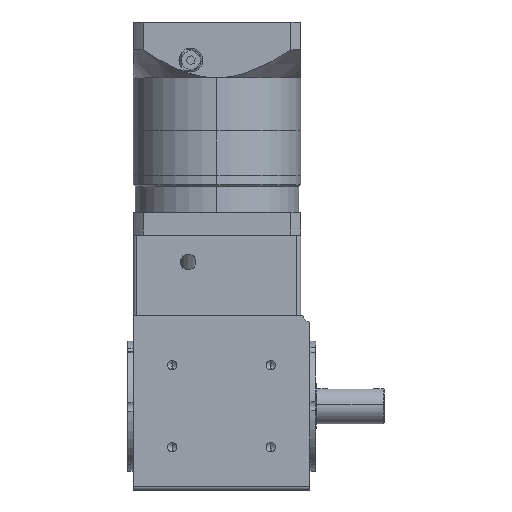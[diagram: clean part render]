
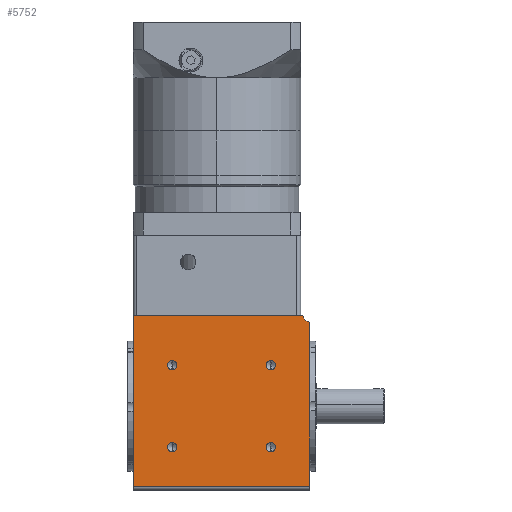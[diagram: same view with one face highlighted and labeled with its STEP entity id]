
A CAD part, left-side view. The second image highlights one B-rep face of the part: STEP entity #5752.
In plain terms, the highlighted planar face has unit normal (-1, 0, 0) as drawn and (0, 1, 0) by its records, which use the part's own axes.
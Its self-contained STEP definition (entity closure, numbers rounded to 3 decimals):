
#188 = DIRECTION ( 'NONE',  ( 0., 0., -1. ) ) ;
#782 = ORIENTED_EDGE ( 'NONE', *, *, #15045, .T. ) ;
#944 = CARTESIAN_POINT ( 'NONE',  ( -16.743, 29.514, 25.5 ) ) ;
#2111 = VECTOR ( 'NONE', #6544, 1000. ) ;
#2469 = CIRCLE ( 'NONE', #7643, 2.5 ) ;
#2540 = CARTESIAN_POINT ( 'NONE',  ( -37.743, 29.514, 94. ) ) ;
#2975 = PLANE ( 'NONE',  #31135 ) ;
#3120 = DIRECTION ( 'NONE',  ( 0., -1., 0. ) ) ;
#3511 = CARTESIAN_POINT ( 'NONE',  ( 36.257, 29.514, 67. ) ) ;
#3804 = CARTESIAN_POINT ( 'NONE',  ( -33.844, 29.514, 94. ) ) ;
#4482 = LINE ( 'NONE', #35425, #12185 ) ;
#4961 = FACE_OUTER_BOUND ( 'NONE', #33718, .T. ) ;
#5752 = ADVANCED_FACE ( 'NONE', ( #39941, #31139, #22478, #13660, #4961 ), #2975, .F. ) ;
#6154 = ORIENTED_EDGE ( 'NONE', *, *, #26188, .F. ) ;
#6544 = DIRECTION ( 'NONE',  ( -1., 0., 0. ) ) ;
#6814 = DIRECTION ( 'NONE',  ( 0., 0., 1. ) ) ;
#6991 = ORIENTED_EDGE ( 'NONE', *, *, #41649, .F. ) ;
#7643 = AXIS2_PLACEMENT_3D ( 'NONE', #8059, #31011, #11351 ) ;
#8059 = CARTESIAN_POINT ( 'NONE',  ( -16.743, 29.514, 23. ) ) ;
#8286 = CIRCLE ( 'NONE', #19177, 2.5 ) ;
#8397 = EDGE_CURVE ( 'NONE', #9954, #16717, #41852, .T. ) ;
#8423 = EDGE_CURVE ( 'NONE', #15838, #33951, #21244, .T. ) ;
#9954 = VERTEX_POINT ( 'NONE', #26985 ) ;
#10401 = AXIS2_PLACEMENT_3D ( 'NONE', #36159, #16443, #39485 ) ;
#10403 = ORIENTED_EDGE ( 'NONE', *, *, #39842, .F. ) ;
#10681 = CIRCLE ( 'NONE', #18692, 2.5 ) ;
#10773 = AXIS2_PLACEMENT_3D ( 'NONE', #39577, #19886, #188 ) ;
#10807 = CARTESIAN_POINT ( 'NONE',  ( 57.257, 29.514, 2. ) ) ;
#10848 = LINE ( 'NONE', #26252, #2111 ) ;
#11207 = DIRECTION ( 'NONE',  ( -1., 0., 0. ) ) ;
#11351 = DIRECTION ( 'NONE',  ( 0., 0., 1. ) ) ;
#11909 = VERTEX_POINT ( 'NONE', #12671 ) ;
#11986 = DIRECTION ( 'NONE',  ( 0., 1., 0. ) ) ;
#12185 = VECTOR ( 'NONE', #15714, 1000. ) ;
#12671 = CARTESIAN_POINT ( 'NONE',  ( 36.257, 29.514, 64.5 ) ) ;
#13156 = EDGE_LOOP ( 'NONE', ( #32574, #19719 ) ) ;
#13660 = FACE_BOUND ( 'NONE', #13156, .T. ) ;
#14307 = CARTESIAN_POINT ( 'NONE',  ( -37.743, 29.514, 94. ) ) ;
#15045 = EDGE_CURVE ( 'NONE', #37585, #33302, #10848, .T. ) ;
#15714 = DIRECTION ( 'NONE',  ( 0., 0., -1. ) ) ;
#15838 = VERTEX_POINT ( 'NONE', #21422 ) ;
#16050 = CARTESIAN_POINT ( 'NONE',  ( 36.257, 29.514, 23. ) ) ;
#16066 = EDGE_CURVE ( 'NONE', #33951, #15838, #33355, .T. ) ;
#16443 = DIRECTION ( 'NONE',  ( 0., 1., 0. ) ) ;
#16652 = CARTESIAN_POINT ( 'NONE',  ( -16.743, 29.514, 67. ) ) ;
#16717 = VERTEX_POINT ( 'NONE', #3804 ) ;
#17771 = ORIENTED_EDGE ( 'NONE', *, *, #30506, .F. ) ;
#17912 = DIRECTION ( 'NONE',  ( 0., 1., 0. ) ) ;
#18060 = CARTESIAN_POINT ( 'NONE',  ( 36.257, 29.514, 23. ) ) ;
#18301 = AXIS2_PLACEMENT_3D ( 'NONE', #31634, #11986, #34965 ) ;
#18692 = AXIS2_PLACEMENT_3D ( 'NONE', #16652, #39682, #19979 ) ;
#19177 = AXIS2_PLACEMENT_3D ( 'NONE', #37636, #17912, #40967 ) ;
#19387 = DIRECTION ( 'NONE',  ( 0., 0., 1. ) ) ;
#19719 = ORIENTED_EDGE ( 'NONE', *, *, #16066, .F. ) ;
#19886 = DIRECTION ( 'NONE',  ( 0., 1., 0. ) ) ;
#19979 = DIRECTION ( 'NONE',  ( 0., 0., 1. ) ) ;
#20216 = CIRCLE ( 'NONE', #29053, 2.5 ) ;
#20506 = CARTESIAN_POINT ( 'NONE',  ( -37.743, 29.514, 2. ) ) ;
#21232 = ORIENTED_EDGE ( 'NONE', *, *, #8397, .F. ) ;
#21244 = CIRCLE ( 'NONE', #24641, 2.5 ) ;
#21416 = DIRECTION ( 'NONE',  ( 0., 0., 1. ) ) ;
#21422 = CARTESIAN_POINT ( 'NONE',  ( 36.257, 29.514, 25.5 ) ) ;
#21700 = EDGE_CURVE ( 'NONE', #26243, #11909, #36231, .T. ) ;
#22306 = VECTOR ( 'NONE', #11207, 1000. ) ;
#22478 = FACE_BOUND ( 'NONE', #30474, .T. ) ;
#22550 = CARTESIAN_POINT ( 'NONE',  ( -16.743, 29.514, 64.5 ) ) ;
#22835 = DIRECTION ( 'NONE',  ( 0., 0., -1. ) ) ;
#23620 = ORIENTED_EDGE ( 'NONE', *, *, #42330, .T. ) ;
#23734 = CIRCLE ( 'NONE', #18301, 2.5 ) ;
#24375 = EDGE_CURVE ( 'NONE', #27403, #36059, #10681, .T. ) ;
#24641 = AXIS2_PLACEMENT_3D ( 'NONE', #18060, #41108, #21416 ) ;
#25431 = ORIENTED_EDGE ( 'NONE', *, *, #33569, .F. ) ;
#25433 = VERTEX_POINT ( 'NONE', #944 ) ;
#25573 = DIRECTION ( 'NONE',  ( 0., 0., -1. ) ) ;
#26188 = EDGE_CURVE ( 'NONE', #16717, #36171, #27024, .T. ) ;
#26243 = VERTEX_POINT ( 'NONE', #30053 ) ;
#26252 = CARTESIAN_POINT ( 'NONE',  ( -37.743, 29.514, 2. ) ) ;
#26528 = DIRECTION ( 'NONE',  ( 0., 1., 0. ) ) ;
#26985 = CARTESIAN_POINT ( 'NONE',  ( 57.257, 29.514, 94. ) ) ;
#27024 = CIRCLE ( 'NONE', #10773, 5. ) ;
#27403 = VERTEX_POINT ( 'NONE', #22550 ) ;
#27999 = CARTESIAN_POINT ( 'NONE',  ( -16.743, 29.514, 69.5 ) ) ;
#28320 = EDGE_LOOP ( 'NONE', ( #17771, #31809 ) ) ;
#28644 = EDGE_LOOP ( 'NONE', ( #40240, #39593 ) ) ;
#29053 = AXIS2_PLACEMENT_3D ( 'NONE', #3511, #26528, #6814 ) ;
#29135 = EDGE_CURVE ( 'NONE', #11909, #26243, #20216, .T. ) ;
#30053 = CARTESIAN_POINT ( 'NONE',  ( 36.257, 29.514, 69.5 ) ) ;
#30474 = EDGE_LOOP ( 'NONE', ( #6991, #10403 ) ) ;
#30506 = EDGE_CURVE ( 'NONE', #36059, #27403, #23734, .T. ) ;
#31011 = DIRECTION ( 'NONE',  ( 0., 1., 0. ) ) ;
#31018 = CARTESIAN_POINT ( 'NONE',  ( 36.257, 29.514, 20.5 ) ) ;
#31101 = CARTESIAN_POINT ( 'NONE',  ( -16.743, 29.514, 20.5 ) ) ;
#31135 = AXIS2_PLACEMENT_3D ( 'NONE', #42372, #3120, #22835 ) ;
#31139 = FACE_BOUND ( 'NONE', #28320, .T. ) ;
#31174 = CARTESIAN_POINT ( 'NONE',  ( -37.743, 29.514, 90.101 ) ) ;
#31634 = CARTESIAN_POINT ( 'NONE',  ( -16.743, 29.514, 67. ) ) ;
#31809 = ORIENTED_EDGE ( 'NONE', *, *, #24375, .F. ) ;
#32574 = ORIENTED_EDGE ( 'NONE', *, *, #8423, .F. ) ;
#33302 = VERTEX_POINT ( 'NONE', #20506 ) ;
#33355 = CIRCLE ( 'NONE', #34739, 2.5 ) ;
#33569 = EDGE_CURVE ( 'NONE', #36171, #33302, #36422, .T. ) ;
#33718 = EDGE_LOOP ( 'NONE', ( #23620, #782, #25431, #6154, #21232 ) ) ;
#33951 = VERTEX_POINT ( 'NONE', #31018 ) ;
#34739 = AXIS2_PLACEMENT_3D ( 'NONE', #16050, #39091, #19387 ) ;
#34965 = DIRECTION ( 'NONE',  ( 0., 0., 1. ) ) ;
#35400 = VECTOR ( 'NONE', #25573, 1000. ) ;
#35425 = CARTESIAN_POINT ( 'NONE',  ( 57.257, 29.514, 94. ) ) ;
#36059 = VERTEX_POINT ( 'NONE', #27999 ) ;
#36159 = CARTESIAN_POINT ( 'NONE',  ( 36.257, 29.514, 67. ) ) ;
#36171 = VERTEX_POINT ( 'NONE', #31174 ) ;
#36231 = CIRCLE ( 'NONE', #10401, 2.5 ) ;
#36422 = LINE ( 'NONE', #2540, #35400 ) ;
#37585 = VERTEX_POINT ( 'NONE', #10807 ) ;
#37636 = CARTESIAN_POINT ( 'NONE',  ( -16.743, 29.514, 23. ) ) ;
#39091 = DIRECTION ( 'NONE',  ( 0., 1., 0. ) ) ;
#39485 = DIRECTION ( 'NONE',  ( 0., 0., 1. ) ) ;
#39577 = CARTESIAN_POINT ( 'NONE',  ( -38.743, 29.514, 95. ) ) ;
#39593 = ORIENTED_EDGE ( 'NONE', *, *, #29135, .F. ) ;
#39682 = DIRECTION ( 'NONE',  ( 0., 1., 0. ) ) ;
#39842 = EDGE_CURVE ( 'NONE', #42172, #25433, #8286, .T. ) ;
#39941 = FACE_BOUND ( 'NONE', #28644, .T. ) ;
#40240 = ORIENTED_EDGE ( 'NONE', *, *, #21700, .F. ) ;
#40967 = DIRECTION ( 'NONE',  ( 0., 0., 1. ) ) ;
#41108 = DIRECTION ( 'NONE',  ( 0., 1., 0. ) ) ;
#41649 = EDGE_CURVE ( 'NONE', #25433, #42172, #2469, .T. ) ;
#41852 = LINE ( 'NONE', #14307, #22306 ) ;
#42172 = VERTEX_POINT ( 'NONE', #31101 ) ;
#42330 = EDGE_CURVE ( 'NONE', #9954, #37585, #4482, .T. ) ;
#42372 = CARTESIAN_POINT ( 'NONE',  ( -37.743, 29.514, 94. ) ) ;
